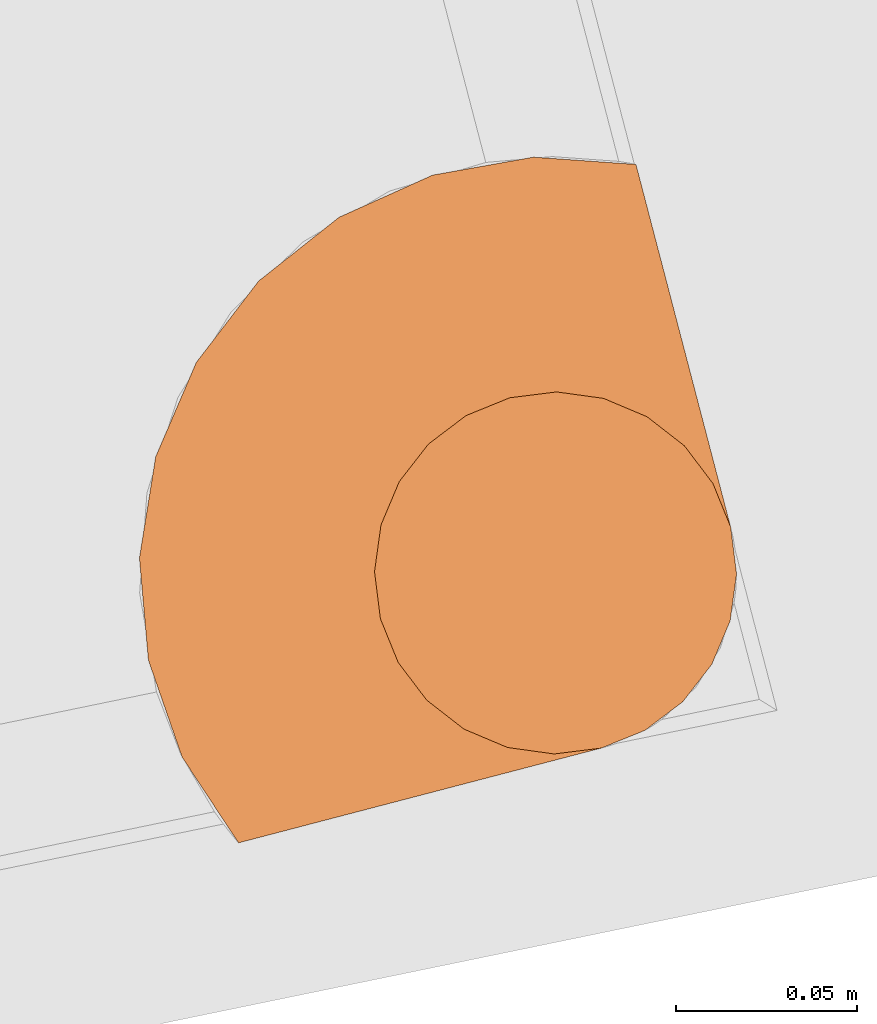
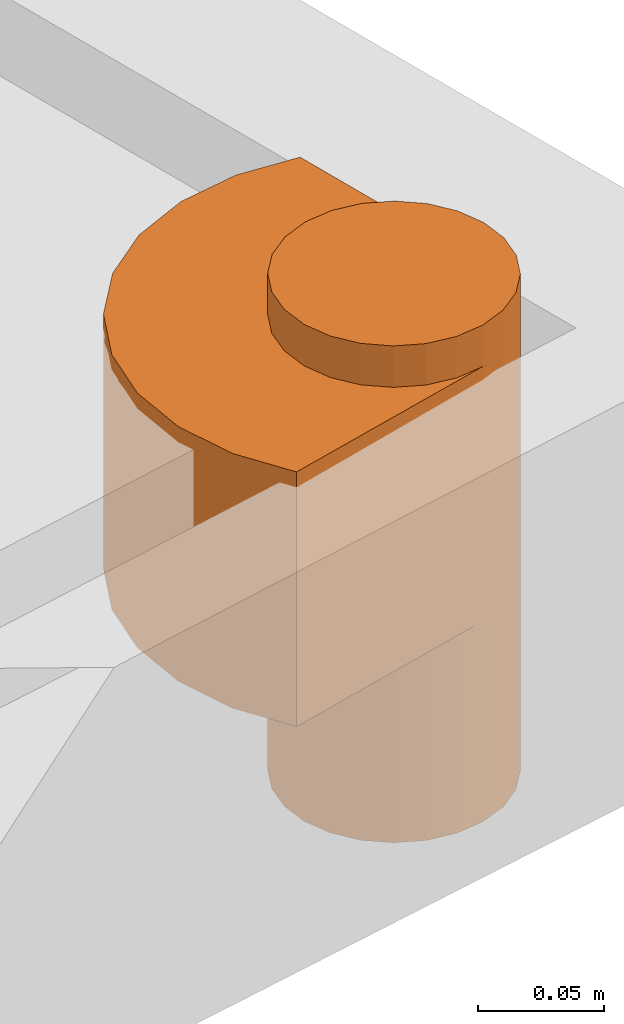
# One storey, part 31 of 31: 1 proxy, 1 element without a shape of its own.
"""IFC2X3 building model written with IfcOpenShell, lengths in centimetres."""

from ifc_helpers import new_model, entity, si_unit, converted_unit, derived_unit, direction, frame, origin, place, context, subcontext, project, spatial, faceted_brep, source, transform, mapped, material, type_object, type_shapes, element, aggregate, save


model = new_model("IFC2X3")

# Units and contexts
model_context = context("Model", 3, precision=0.001, world=origin(), true_north=direction((6.12303176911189e-17, 1.0)))
body_context = subcontext(model_context, "Body", "Model", "MODEL_VIEW")
ifc_project = project(units=[si_unit("LENGTHUNIT", "METRE", prefix="CENTI"), si_unit("AREAUNIT", "SQUARE_METRE"), si_unit("VOLUMEUNIT", "CUBIC_METRE"), converted_unit("PLANEANGLEUNIT", "DEGREE", entity("IfcRatioMeasure", 0.0174532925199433), si_unit("PLANEANGLEUNIT", "RADIAN"), dimensions=[0, 0, 0, 0, 0, 0, 0]), si_unit("MASSUNIT", "GRAM", prefix="KILO"), derived_unit("MASSDENSITYUNIT", [(si_unit("MASSUNIT", "GRAM", prefix="KILO"), 1), (si_unit("LENGTHUNIT", "METRE"), -3)]), si_unit("TIMEUNIT", "SECOND"), si_unit("FREQUENCYUNIT", "HERTZ"), si_unit("THERMODYNAMICTEMPERATUREUNIT", "DEGREE_CELSIUS"), derived_unit("THERMALTRANSMITTANCEUNIT", [(si_unit("MASSUNIT", "GRAM", prefix="KILO"), 1), (si_unit("THERMODYNAMICTEMPERATUREUNIT", "KELVIN"), -1), (si_unit("TIMEUNIT", "SECOND"), -3)]), derived_unit("VOLUMETRICFLOWRATEUNIT", [(si_unit("LENGTHUNIT", "METRE"), 3), (si_unit("TIMEUNIT", "SECOND"), -1)]), si_unit("ELECTRICCURRENTUNIT", "AMPERE"), si_unit("ELECTRICVOLTAGEUNIT", "VOLT"), si_unit("POWERUNIT", "WATT"), si_unit("FORCEUNIT", "NEWTON"), si_unit("ILLUMINANCEUNIT", "LUX"), si_unit("LUMINOUSFLUXUNIT", "LUMEN"), si_unit("LUMINOUSINTENSITYUNIT", "CANDELA"), derived_unit("USERDEFINED", [(si_unit("MASSUNIT", "GRAM", prefix="KILO"), -1), (si_unit("LENGTHUNIT", "METRE"), -2), (si_unit("TIMEUNIT", "SECOND"), 3), (si_unit("LUMINOUSFLUXUNIT", "LUMEN"), 1)]), derived_unit("LINEARVELOCITYUNIT", [(si_unit("LENGTHUNIT", "METRE"), 1), (si_unit("TIMEUNIT", "SECOND"), -1)]), si_unit("PRESSUREUNIT", "PASCAL"), derived_unit("USERDEFINED", [(si_unit("LENGTHUNIT", "METRE"), -2), (si_unit("MASSUNIT", "GRAM", prefix="KILO"), 1), (si_unit("TIMEUNIT", "SECOND"), -2)])], contexts=[model_context])

# Site, building, storey
site_placement = place(None, origin())
site = spatial("IfcSite", under=ifc_project, at=site_placement, Name="Default", CompositionType="ELEMENT")
building_placement = place(site_placement, origin())
building = spatial("IfcBuilding", under=site, at=building_placement, Name="CAGE 03", CompositionType="ELEMENT")
storey_placement = place(building_placement, frame((0.0, 0.0, -400.0)))
storey = spatial("IfcBuildingStorey", under=building, at=storey_placement, Name="±0.00", CompositionType="ELEMENT", Elevation=-400.0)

# Assembly, proxy
assembly_placement = place(storey_placement, origin())
assembly = element("IfcElementAssembly", 1, at=assembly_placement, inside=storey, Name="Assemblage Modèles génériques:BALCON TYPE 08", ObjectType="Assemblage Modèles génériques:BALCON TYPE 08", AssemblyPlace="NOTDEFINED", PredefinedType="USERDEFINED")
ifc_material = material(Name="BBGO_Résa")
building_element_proxy_type = type_object("IfcBuildingElementProxyType", Name="Siphon de balcon", PredefinedType="NOTDEFINED", material=ifc_material)
shared_shape = source(origin(), body_context, "Body", "Brep", [
    faceted_brep([(10.3541591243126, 16.4778834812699, 9.69999999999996), (10.3541591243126, 16.4778834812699, 0.0), (9.14825434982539, 15.9783813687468, 0.0), (9.14825434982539, 15.9783813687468, 9.69999999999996), (10.3541591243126, 16.4778834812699, 22.0), (9.14825434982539, 15.9783813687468, 22.0), (9.14825434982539, 15.9783813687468, 24.0), (10.3541591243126, 16.4778834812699, 24.0), (8.11272044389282, 15.1837882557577, 0.0), (8.11272044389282, 15.1837882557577, 9.69999999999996), (8.11272044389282, 15.1837882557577, 22.0), (8.11272044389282, 15.1837882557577, 24.0), (7.31812733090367, 14.1482543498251, 9.69999999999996), (7.31812733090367, 14.1482543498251, 0.0), (6.81862521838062, 12.9423495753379, 0.0), (6.81862521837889, 12.942349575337, 9.69999999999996), (7.31812733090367, 14.1482543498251, 22.0), (6.81862521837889, 12.942349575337, 22.0), (6.81862521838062, 12.9423495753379, 24.0), (7.31812733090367, 14.1482543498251, 24.0), (6.64825434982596, 11.6482543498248, 0.0), (6.64825434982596, 11.6482543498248, 9.69999999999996), (6.64825434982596, 11.6482543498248, 24.0), (6.64825434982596, 11.6482543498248, 22.0), (11.6482543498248, 16.6482543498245, 9.69999999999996), (11.6482543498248, 16.6482543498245, 0.0), (11.6482543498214, 16.6482543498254, 22.0), (11.6482543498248, 16.6482543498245, 24.0), (6.81862521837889, 10.3541591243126, 9.69999999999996), (6.81862521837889, 10.3541591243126, 0.0), (7.31812733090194, 9.14825434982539, 0.0), (7.31812733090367, 9.14825434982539, 9.69999999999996), (6.81862521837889, 10.3541591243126, 22.0), (7.31812733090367, 9.14825434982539, 22.0), (7.31812733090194, 9.14825434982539, 24.0), (6.81862521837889, 10.3541591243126, 24.0), (8.11272044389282, 8.11272044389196, 0.0), (8.11272044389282, 8.11272044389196, 9.69999999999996), (8.11272044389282, 8.11272044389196, 22.0), (8.11272044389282, 8.11272044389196, 24.0), (9.14825434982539, 7.31812733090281, 9.69999999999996), (9.14825434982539, 7.31812733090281, 0.0), (10.3541591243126, 6.81862521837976, 0.0), (10.3541591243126, 6.81862521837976, 9.69999999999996), (9.14825434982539, 7.31812733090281, 22.0), (10.3541591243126, 6.81862521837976, 22.0), (10.3541591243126, 6.81862521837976, 24.0), (9.14825434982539, 7.31812733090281, 24.0), (11.6482543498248, 6.64825434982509, 0.0), (11.6482543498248, 6.64825434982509, 9.69999999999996), (11.6482543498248, 6.64825434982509, 22.0), (11.6482543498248, 6.64825434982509, 24.0), (16.4778834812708, 10.3541591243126, 22.0), (15.978381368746, 9.14825434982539, 22.0), (15.1837882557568, 8.11272044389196, 22.0), (14.1482543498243, 7.31812733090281, 22.0), (12.942349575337, 6.81862521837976, 22.0), (1.29209676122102, 16.6482543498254, 22.0), (0.383832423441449, 13.964026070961, 22.0), (0.15952722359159, 11.1391875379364, 22.0), (0.632800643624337, 8.34525879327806, 22.0), (1.77491621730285, 5.75188308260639, 22.0), (3.51652636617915, 3.51652636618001, 22.0), (5.75188308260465, 1.77491621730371, 22.0), (8.34525879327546, 0.632800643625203, 22.0), (11.1391875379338, 0.159527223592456, 22.0), (13.9640260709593, 0.383832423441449, 22.0), (16.6482543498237, 1.29209676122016, 22.0), (16.6482543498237, 11.6482543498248, 22.0), (12.942349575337, 6.81862521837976, 9.69999999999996), (14.1482543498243, 7.31812733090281, 9.69999999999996), (15.1837882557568, 8.11272044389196, 9.69999999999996), (15.978381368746, 9.14825434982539, 9.69999999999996), (16.4778834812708, 10.3541591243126, 9.69999999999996), (16.6482543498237, 11.6482543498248, 9.69999999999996), (16.6482543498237, 1.29209676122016, 9.69999999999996), (13.9640260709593, 0.383832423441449, 9.69999999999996), (11.1391875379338, 0.159527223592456, 9.69999999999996), (8.34525879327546, 0.632800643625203, 9.69999999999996), (5.75188308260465, 1.77491621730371, 9.69999999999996), (3.51652636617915, 3.51652636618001, 9.69999999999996), (1.77491621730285, 5.75188308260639, 9.69999999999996), (0.632800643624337, 8.34525879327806, 9.69999999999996), (0.15952722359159, 11.1391875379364, 9.69999999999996), (0.383832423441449, 13.964026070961, 9.69999999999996), (1.29209676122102, 16.6482543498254, 9.69999999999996), (1.29209676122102, 16.6482543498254, 21.5299497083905), (16.6482543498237, 1.29209676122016, 21.3763717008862), (12.942349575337, 6.81862521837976, 24.0), (14.1482543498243, 7.31812733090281, 24.0), (15.1837882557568, 8.11272044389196, 24.0), (15.978381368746, 9.14825434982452, 24.0), (16.477883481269, 10.3541591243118, 24.0), (16.6482543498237, 11.6482543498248, 24.0), (16.4778834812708, 12.942349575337, 24.0), (15.9783813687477, 14.1482543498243, 24.0), (15.1837882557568, 15.1837882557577, 24.0), (14.1482543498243, 15.9783813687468, 24.0), (12.942349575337, 16.4778834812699, 24.0), (14.1482543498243, 7.31812733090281, 0.0), (12.942349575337, 6.81862521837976, 0.0), (12.942349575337, 16.4778834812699, 0.0), (14.1482543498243, 15.9783813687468, 0.0), (15.1837882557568, 15.1837882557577, 0.0), (15.9783813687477, 14.1482543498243, 0.0), (16.4778834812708, 12.942349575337, 0.0), (16.6482543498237, 11.6482543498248, 0.0), (16.477883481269, 10.3541591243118, 0.0), (15.978381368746, 9.14825434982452, 0.0), (15.1837882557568, 8.11272044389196, 0.0)], [[[0, 1, 2, 3]], [[4, 5, 6, 7]], [[8, 9, 3, 2]], [[5, 10, 11, 6]], [[12, 13, 14, 15]], [[16, 17, 18, 19]], [[8, 13, 12, 9]], [[10, 16, 19, 11]], [[15, 14, 20, 21]], [[22, 18, 17, 23]], [[1, 0, 24, 25]], [[26, 4, 7, 27]], [[28, 29, 30, 31]], [[32, 33, 34, 35]], [[36, 37, 31, 30]], [[33, 38, 39, 34]], [[40, 41, 42, 43]], [[44, 45, 46, 47]], [[36, 41, 40, 37]], [[38, 44, 47, 39]], [[43, 42, 48, 49]], [[45, 50, 51, 46]], [[29, 28, 21, 20]], [[32, 35, 22, 23]], [[52, 53, 54, 55, 56, 50, 45, 44, 38, 33, 32, 23, 17, 16, 10, 5, 4, 26, 57, 58, 59, 60, 61, 62, 63, 64, 65, 66, 67, 68]], [[21, 28, 31, 37, 40, 43, 49, 69, 70, 71, 72, 73, 74, 75, 76, 77, 78, 79, 80, 81, 82, 83, 84, 85, 24, 0, 3, 9, 12, 15]], [[57, 26, 24, 85, 86]], [[86, 85, 84, 58, 57]], [[83, 59, 58, 84]], [[60, 82, 81, 61]], [[83, 82, 60, 59]], [[61, 81, 80, 62]], [[78, 64, 63, 79]], [[77, 65, 64, 78]], [[76, 75, 87, 67, 66]], [[77, 76, 66, 65]], [[79, 63, 62, 80]], [[68, 67, 87, 75, 74]], [[22, 35, 34, 39, 47, 46, 51, 88, 89, 90, 91, 92, 93, 94, 95, 96, 97, 98, 27, 7, 6, 11, 19, 18]], [[99, 100, 48, 42, 41, 36, 30, 29, 20, 14, 13, 8, 2, 1, 25, 101, 102, 103, 104, 105, 106, 107, 108, 109]], [[48, 100, 69, 49]], [[51, 50, 56, 88]], [[99, 70, 69, 100]], [[56, 55, 89, 88]], [[109, 108, 72, 71]], [[54, 53, 91, 90]], [[109, 71, 70, 99]], [[54, 90, 89, 55]], [[108, 107, 73, 72]], [[91, 53, 52, 92]], [[74, 106, 105, 94, 93, 68]], [[107, 106, 74, 73]], [[52, 68, 93, 92]], [[94, 105, 104, 95]], [[101, 25, 24, 26, 27, 98]], [[96, 103, 102, 97]], [[101, 98, 97, 102]], [[95, 104, 103, 96]]]),
])
type_shapes(building_element_proxy_type, [shared_shape])
proxy_placement = place(assembly_placement, frame((10771.9314802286, 3315.28180629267, 988.0), z_axis=(0.0, 0.0, 1.0), x_axis=(0.252679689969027, -0.967549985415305, 0.0)))
proxy = element("IfcBuildingElementProxy", 2, at=proxy_placement, type_object=building_element_proxy_type, material=ifc_material, Name="Siphon de balcon24:Siphon de balcon", ObjectType="Siphon de balcon", context=body_context, shape_type="MappedRepresentation", body=[
    mapped(shared_shape, transform((0.0, 0.0, 0.0), scale=1.0)),
])
aggregate(assembly, [proxy])

save(model, "model.ifc")
